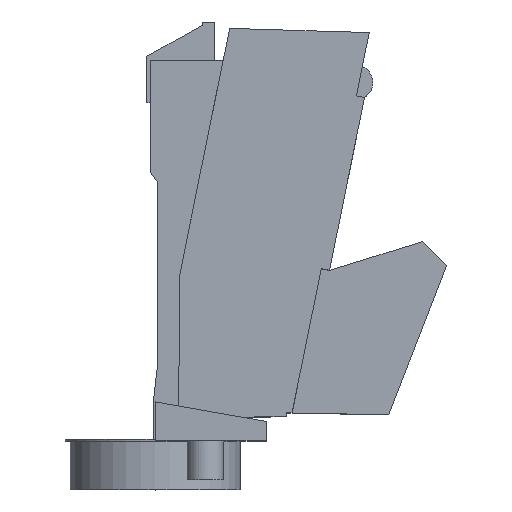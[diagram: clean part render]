
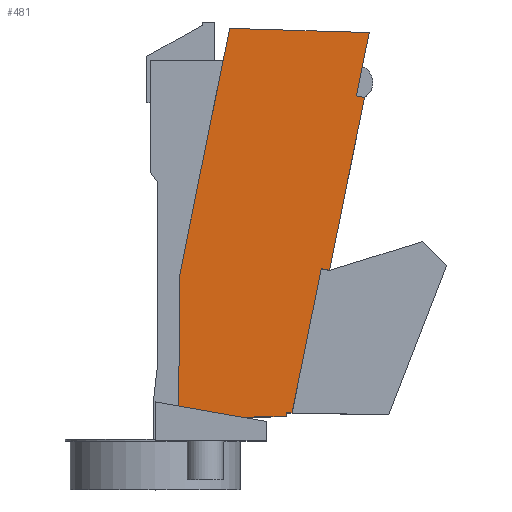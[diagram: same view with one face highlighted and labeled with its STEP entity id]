
A CAD part, top view. The second image highlights one B-rep face of the part: STEP entity #481.
In plain terms, the highlighted planar face has unit normal (0, 0, 1).
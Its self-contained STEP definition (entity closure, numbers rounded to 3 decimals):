
#16 = AXIS2_PLACEMENT_3D ( 'NONE', #1644, #1650, #1651 ) ;
#101 = AXIS2_PLACEMENT_3D ( 'NONE', #1356, #1349, #1348 ) ;
#170 = EDGE_CURVE ( 'NONE', #1379, #1432, #744, .T. ) ;
#171 = EDGE_CURVE ( 'NONE', #1363, #1374, #757, .T. ) ;
#172 = EDGE_CURVE ( 'NONE', #1374, #1369, #719, .T. ) ;
#173 = EDGE_CURVE ( 'NONE', #1402, #1379, #715, .T. ) ;
#174 = EDGE_CURVE ( 'NONE', #1402, #1416, #722, .T. ) ;
#175 = EDGE_CURVE ( 'NONE', #1432, #1363, #714, .T. ) ;
#176 = EDGE_CURVE ( 'NONE', #1369, #1376, #712, .T. ) ;
#177 = EDGE_CURVE ( 'NONE', #1383, #1376, #710, .T. ) ;
#178 = EDGE_CURVE ( 'NONE', #1394, #1383, #708, .T. ) ;
#179 = EDGE_CURVE ( 'NONE', #1394, #1396, #706, .T. ) ;
#180 = EDGE_CURVE ( 'NONE', #1396, #1387, #704, .T. ) ;
#181 = EDGE_CURVE ( 'NONE', #1387, #1436, #702, .T. ) ;
#182 = EDGE_CURVE ( 'NONE', #1436, #1416, #700, .T. ) ;
#291 = FACE_OUTER_BOUND ( 'NONE', #839, .T. ) ;
#481 = ADVANCED_FACE ( 'NONE', ( #291 ), #1641, .F. ) ;
#699 = VECTOR ( 'NONE', #1320, 1000. ) ;
#700 = LINE ( 'NONE', #1321, #699 ) ;
#701 = VECTOR ( 'NONE', #1323, 1000. ) ;
#702 = LINE ( 'NONE', #1324, #701 ) ;
#703 = VECTOR ( 'NONE', #1326, 1000. ) ;
#704 = LINE ( 'NONE', #1327, #703 ) ;
#705 = VECTOR ( 'NONE', #1329, 1000. ) ;
#706 = LINE ( 'NONE', #1330, #705 ) ;
#707 = VECTOR ( 'NONE', #1332, 1000. ) ;
#708 = LINE ( 'NONE', #1333, #707 ) ;
#709 = VECTOR ( 'NONE', #1335, 1000. ) ;
#710 = LINE ( 'NONE', #1336, #709 ) ;
#711 = VECTOR ( 'NONE', #1338, 1000. ) ;
#712 = LINE ( 'NONE', #1340, #711 ) ;
#713 = VECTOR ( 'NONE', #1341, 1000. ) ;
#714 = LINE ( 'NONE', #1342, #713 ) ;
#715 = CIRCLE ( 'NONE', #101, 3. ) ;
#718 = VECTOR ( 'NONE', #1351, 1000. ) ;
#719 = LINE ( 'NONE', #1352, #718 ) ;
#721 = VECTOR ( 'NONE', #1354, 1000. ) ;
#722 = LINE ( 'NONE', #1346, #728 ) ;
#724 = VECTOR ( 'NONE', #1357, 1000. ) ;
#728 = VECTOR ( 'NONE', #1344, 1000. ) ;
#744 = LINE ( 'NONE', #1366, #724 ) ;
#757 = LINE ( 'NONE', #1360, #721 ) ;
#839 = EDGE_LOOP ( 'NONE', ( #2073, #2072, #2070, #2069, #2067, #2066, #2064, #2063, #2062, #2060, #2061, #2059, #2058 ) ) ;
#1320 = DIRECTION ( 'NONE',  ( -0.009, -1., 0. ) ) ;
#1321 = CARTESIAN_POINT ( 'NONE',  ( 10.52, 34.28, 12.1 ) ) ;
#1323 = DIRECTION ( 'NONE',  ( -0.199, -0.98, 0. ) ) ;
#1324 = CARTESIAN_POINT ( 'NONE',  ( 20.765, 84.771, 12.1 ) ) ;
#1326 = DIRECTION ( 'NONE',  ( -1., 0.03, 0. ) ) ;
#1327 = CARTESIAN_POINT ( 'NONE',  ( 49.433, 83.91, 12.1 ) ) ;
#1329 = DIRECTION ( 'NONE',  ( 0.199, 0.98, 0. ) ) ;
#1330 = CARTESIAN_POINT ( 'NONE',  ( 48.023, 76.962, 12.1 ) ) ;
#1332 = DIRECTION ( 'NONE',  ( 0.98, -0.199, 0. ) ) ;
#1333 = CARTESIAN_POINT ( 'NONE',  ( 10.961, 78.159, 12.1 ) ) ;
#1335 = DIRECTION ( 'NONE',  ( -0.199, -0.98, 0. ) ) ;
#1336 = CARTESIAN_POINT ( 'NONE',  ( 41.255, 35.057, 12.1 ) ) ;
#1338 = DIRECTION ( 'NONE',  ( 0.98, -0.199, 0. ) ) ;
#1340 = CARTESIAN_POINT ( 'NONE',  ( 3.759, 42.665, 12.1 ) ) ;
#1341 = DIRECTION ( 'NONE',  ( 0., 1., 0. ) ) ;
#1342 = CARTESIAN_POINT ( 'NONE',  ( 32.38, 5.02, 12.1 ) ) ;
#1344 = DIRECTION ( 'NONE',  ( -0.985, 0.174, 0. ) ) ;
#1346 = CARTESIAN_POINT ( 'NONE',  ( 24.324, 4.692, 12.1 ) ) ;
#1348 = DIRECTION ( 'NONE',  ( -1., 0., 0. ) ) ;
#1349 = DIRECTION ( 'NONE',  ( 0., 0., -1. ) ) ;
#1351 = DIRECTION ( 'NONE',  ( 0.199, 0.98, 0. ) ) ;
#1352 = CARTESIAN_POINT ( 'NONE',  ( 48.023, 76.962, 12.1 ) ) ;
#1354 = DIRECTION ( 'NONE',  ( 1., -0.017, 0. ) ) ;
#1356 = CARTESIAN_POINT ( 'NONE',  ( 23.835, 1.92, 12.1 ) ) ;
#1357 = DIRECTION ( 'NONE',  ( 1., 0.012, 0. ) ) ;
#1360 = CARTESIAN_POINT ( 'NONE',  ( 32.38, 5.786, 12.1 ) ) ;
#1363 = VERTEX_POINT ( 'NONE', #1733 ) ;
#1366 = CARTESIAN_POINT ( 'NONE',  ( 23.8, 4.92, 12.1 ) ) ;
#1369 = VERTEX_POINT ( 'NONE', #1735 ) ;
#1374 = VERTEX_POINT ( 'NONE', #1736 ) ;
#1376 = VERTEX_POINT ( 'NONE', #1737 ) ;
#1379 = VERTEX_POINT ( 'NONE', #1738 ) ;
#1383 = VERTEX_POINT ( 'NONE', #1740 ) ;
#1387 = VERTEX_POINT ( 'NONE', #1741 ) ;
#1394 = VERTEX_POINT ( 'NONE', #1743 ) ;
#1396 = VERTEX_POINT ( 'NONE', #1744 ) ;
#1402 = VERTEX_POINT ( 'NONE', #1746 ) ;
#1416 = VERTEX_POINT ( 'NONE', #1751 ) ;
#1432 = VERTEX_POINT ( 'NONE', #1755 ) ;
#1436 = VERTEX_POINT ( 'NONE', #1757 ) ;
#1641 = PLANE ( 'NONE',  #16 ) ;
#1644 = CARTESIAN_POINT ( 'NONE',  ( 23.835, 1.92, 12.1 ) ) ;
#1650 = DIRECTION ( 'NONE',  ( 0., 0., -1. ) ) ;
#1651 = DIRECTION ( 'NONE',  ( -1., 0., 0. ) ) ;
#1733 = CARTESIAN_POINT ( 'NONE',  ( 32.38, 5.786, 12.1 ) ) ;
#1735 = CARTESIAN_POINT ( 'NONE',  ( 39.589, 35.395, 12.1 ) ) ;
#1736 = CARTESIAN_POINT ( 'NONE',  ( 33.577, 5.765, 12.1 ) ) ;
#1737 = CARTESIAN_POINT ( 'NONE',  ( 41.255, 35.057, 12.1 ) ) ;
#1738 = CARTESIAN_POINT ( 'NONE',  ( 23.8, 4.92, 12.1 ) ) ;
#1740 = CARTESIAN_POINT ( 'NONE',  ( 48.457, 70.551, 12.1 ) ) ;
#1741 = CARTESIAN_POINT ( 'NONE',  ( 20.765, 84.771, 12.1 ) ) ;
#1743 = CARTESIAN_POINT ( 'NONE',  ( 46.791, 70.889, 12.1 ) ) ;
#1744 = CARTESIAN_POINT ( 'NONE',  ( 49.433, 83.91, 12.1 ) ) ;
#1746 = CARTESIAN_POINT ( 'NONE',  ( 23.302, 4.872, 12.1 ) ) ;
#1751 = CARTESIAN_POINT ( 'NONE',  ( 10.279, 7.169, 12.1 ) ) ;
#1755 = CARTESIAN_POINT ( 'NONE',  ( 32.38, 5.02, 12.1 ) ) ;
#1757 = CARTESIAN_POINT ( 'NONE',  ( 10.52, 34.28, 12.1 ) ) ;
#2058 = ORIENTED_EDGE ( 'NONE', *, *, #182, .T. ) ;
#2059 = ORIENTED_EDGE ( 'NONE', *, *, #181, .T. ) ;
#2060 = ORIENTED_EDGE ( 'NONE', *, *, #179, .T. ) ;
#2061 = ORIENTED_EDGE ( 'NONE', *, *, #180, .T. ) ;
#2062 = ORIENTED_EDGE ( 'NONE', *, *, #178, .F. ) ;
#2063 = ORIENTED_EDGE ( 'NONE', *, *, #177, .F. ) ;
#2064 = ORIENTED_EDGE ( 'NONE', *, *, #176, .T. ) ;
#2066 = ORIENTED_EDGE ( 'NONE', *, *, #172, .T. ) ;
#2067 = ORIENTED_EDGE ( 'NONE', *, *, #171, .T. ) ;
#2069 = ORIENTED_EDGE ( 'NONE', *, *, #175, .T. ) ;
#2070 = ORIENTED_EDGE ( 'NONE', *, *, #170, .T. ) ;
#2072 = ORIENTED_EDGE ( 'NONE', *, *, #173, .T. ) ;
#2073 = ORIENTED_EDGE ( 'NONE', *, *, #174, .F. ) ;
